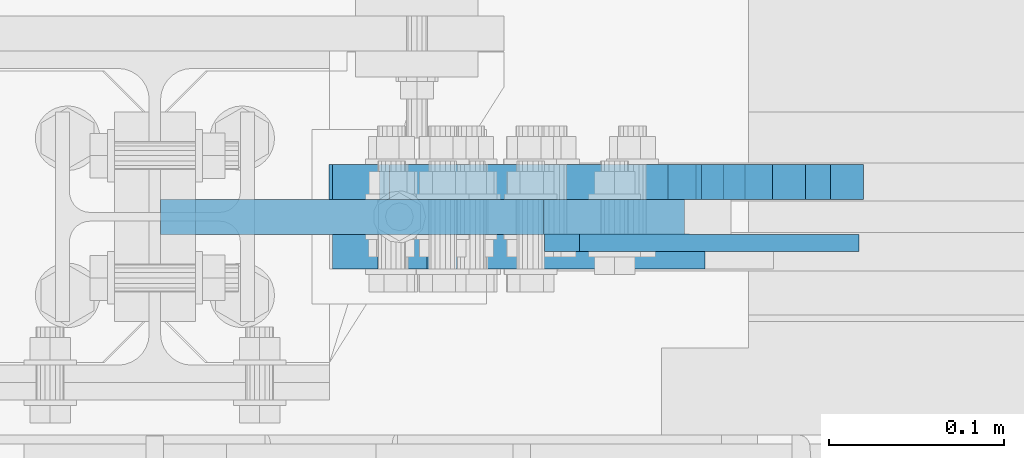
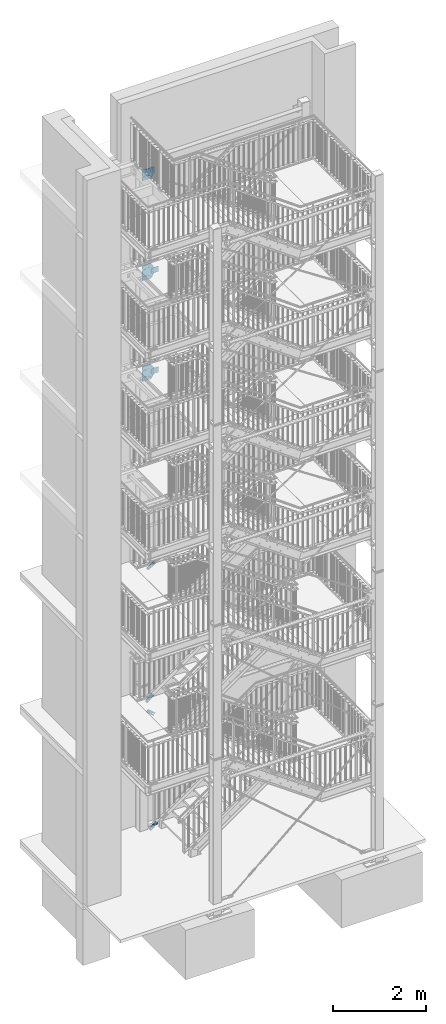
# One storey, part 182 of 825: 9 plates, 38 openings.
"""IFC2X3 building model written with IfcOpenShell, lengths in millimetres."""

from ifc_helpers import new_model, entity, si_unit, converted_unit, point, frame, frame_2d, origin, origin_with_axes, place, context, project, spatial, polyline, circle_curve, line_curve, trimmed, segment, composite_curve, circle, outline, extrude, material, layer, layer_set, element, save


model = new_model("IFC2X3")

# Units and contexts
model_context = context("Model", 3, precision=1e-09, world=origin_with_axes())
ifc_project = project(units=[si_unit("LENGTHUNIT", "METRE", prefix="MILLI"), si_unit("AREAUNIT", "SQUARE_METRE"), si_unit("VOLUMEUNIT", "CUBIC_METRE"), converted_unit("PLANEANGLEUNIT", "DEGREE", entity("IfcPlaneAngleMeasure", 0.01745329), si_unit("PLANEANGLEUNIT", "RADIAN"), dimensions=[0, 0, 0, 0, 0, 0, 0])], contexts=[model_context])

# Site, building, storey
site_placement = place(None, origin_with_axes())
site = spatial("IfcSite", under=ifc_project, at=site_placement, Name="Cnopf'sche Kinderklinik", CompositionType="ELEMENT")
building_placement = place(site_placement, origin_with_axes())
building = spatial("IfcBuilding", under=site, at=building_placement, Name="Struktur 1", CompositionType="ELEMENT")
storey_placement = place(building_placement, origin_with_axes())
storey = spatial("IfcBuildingStorey", under=building, at=storey_placement, Name="Default Storey", CompositionType="ELEMENT", Elevation=0.0)

# Plate, openings
ifc_material = material(Name="S235JR")
ifc_layer_1 = layer(ifc_material, 20.0)
ifc_layer_set_1 = layer_set([ifc_layer_1], Name="S235JR")
plate_1_placement = place(None, frame((4859.963402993, 7526.736971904, 12437.428402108), z_axis=(0.0, -1.0, 0.0), x_axis=(0.0, 0.0, -1.0)))
plate_1 = element("IfcPlate", 1, at=plate_1_placement, inside=storey, material=ifc_layer_set_1, Name="-", ObjectType="-", context=model_context, shape_type="SweptSolid", body=[
    extrude(outline(polyline([(0.0, 0.0), (386.856811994, 0.0), (386.856811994, 219.202103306), (263.428405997, 300.0), (123.428405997, 300.0), (0.0, 219.202103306), (0.0, 0.0)])), origin_with_axes(), (0.0, 0.0, 1.0), 20.0),
])
opening_1_placement = place(plate_1_placement, frame((0.0, 0.0, 20.1), z_axis=(0.0, 0.0, -1.0), x_axis=(0.0, -1.0, 0.0)))
element("IfcOpeningElement", 2, at=opening_1_placement, cuts=plate_1, ObjectType="Opening", context=model_context, shape_type="SweptSolid", body=[
    extrude(outline(composite_curve([segment(trimmed(line_curve((20.001, -257.427402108), (-1.0, 0.0), 20.001414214), [point((20.001, -257.427402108))], [point((-0.000414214, -257.427402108))], True, "CARTESIAN"), True, "CONTINUOUS"), segment(trimmed(line_curve((-0.000414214, -257.427402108), (-0.707106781, -0.707106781), 28.284271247), [point((-0.000414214, -257.427402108))], [point((-20.000414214, -277.427402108))], True, "CARTESIAN"), True, "CONTINUOUS"), segment(trimmed(line_curve((-20.000414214, -277.427402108), (-1.0, 0.0), 77.749584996), [point((-20.000414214, -277.427402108))], [point((-97.749999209, -277.427402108))], True, "CARTESIAN"), True, "CONTINUOUS"), segment(trimmed(circle_curve(frame_2d((-97.75, -283.428402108), x_axis=(1.0, 0.0)), 6.001), [point((-97.749999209, -277.427402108))], [point((-97.75, -289.429402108))], True, "CARTESIAN"), True, "CONTINUOUS"), segment(trimmed(line_curve((-97.75, -289.429402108), (1.0, 0.0), 77.749585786), [point((-97.75, -289.429402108))], [point((-20.000414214, -289.429402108))], True, "CARTESIAN"), True, "CONTINUOUS"), segment(trimmed(line_curve((-20.000414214, -289.429402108), (0.707106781, -0.707106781), 28.284271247), [point((-20.000414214, -289.429402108))], [point((-0.000414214, -309.429402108))], True, "CARTESIAN"), True, "CONTINUOUS"), segment(trimmed(line_curve((-0.000414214, -309.429402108), (1.0, 0.0), 20.001414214), [point((-0.000414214, -309.429402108))], [point((20.001, -309.429402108))], True, "CARTESIAN"), True, "CONTINUOUS"), segment(trimmed(line_curve((20.001, -309.429402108), (0.0, 1.0), 52.002), [point((20.001, -309.429402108))], [point((20.001, -257.427402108))], True, "CARTESIAN"), True, "CONTINUOUS")], self_intersect=False)), origin(), (0.0, 0.0, 1.0), 20.2),
])
opening_2_placement = place(plate_1_placement, frame((0.0, 0.0, 20.1), z_axis=(0.0, 0.0, -1.0), x_axis=(0.0, -1.0, 0.0)))
element("IfcOpeningElement", 3, at=opening_2_placement, cuts=plate_1, ObjectType="Opening", context=model_context, shape_type="SweptSolid", body=[
    extrude(outline(composite_curve([segment(trimmed(line_curve((20.001, -77.427402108), (-1.0, 0.0), 20.001414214), [point((20.001, -77.427402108))], [point((-0.000414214, -77.427402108))], True, "CARTESIAN"), True, "CONTINUOUS"), segment(trimmed(line_curve((-0.000414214, -77.427402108), (-0.707106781, -0.707106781), 28.284271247), [point((-0.000414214, -77.427402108))], [point((-20.000414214, -97.427402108))], True, "CARTESIAN"), True, "CONTINUOUS"), segment(trimmed(line_curve((-20.000414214, -97.427402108), (-1.0, 0.0), 77.749585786), [point((-20.000414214, -97.427402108))], [point((-97.75, -97.427402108))], True, "CARTESIAN"), True, "CONTINUOUS"), segment(trimmed(circle_curve(frame_2d((-97.75, -103.428402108), x_axis=(1.0, 0.0)), 6.001), [point((-97.75, -97.427402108))], [point((-97.75, -109.429402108))], True, "CARTESIAN"), True, "CONTINUOUS"), segment(trimmed(line_curve((-97.75, -109.429402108), (1.0, 0.0), 77.749585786), [point((-97.75, -109.429402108))], [point((-20.000414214, -109.429402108))], True, "CARTESIAN"), True, "CONTINUOUS"), segment(trimmed(line_curve((-20.000414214, -109.429402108), (0.707106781, -0.707106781), 28.284271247), [point((-20.000414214, -109.429402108))], [point((-0.000414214, -129.429402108))], True, "CARTESIAN"), True, "CONTINUOUS"), segment(trimmed(line_curve((-0.000414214, -129.429402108), (1.0, 0.0), 20.001414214), [point((-0.000414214, -129.429402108))], [point((20.001, -129.429402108))], True, "CARTESIAN"), True, "CONTINUOUS"), segment(trimmed(line_curve((20.001, -129.429402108), (0.0, 1.0), 52.002), [point((20.001, -129.429402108))], [point((20.001, -77.427402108))], True, "CARTESIAN"), True, "CONTINUOUS")], self_intersect=False)), origin(), (0.0, 0.0, 1.0), 20.2),
])
opening_3_placement = place(plate_1_placement, frame((163.428405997, 269.000998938, -0.5), z_axis=(0.0, 0.0, -1.0), x_axis=(-1.0, 0.0, 0.0)))
element("IfcOpeningElement", 4, at=opening_3_placement, cuts=plate_1, ObjectType="Opening", context=model_context, shape_type="SweptSolid", body=[
    extrude(circle(Radius=9.001, at=frame_2d((0.0, -9.001), x_axis=(1.0, 0.0))), origin(), (0.0, 0.0, -1.0), 21.0),
])
opening_4_placement = place(plate_1_placement, frame((223.428405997, 269.000998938, -0.5), z_axis=(0.0, 0.0, -1.0), x_axis=(-1.0, 0.0, 0.0)))
element("IfcOpeningElement", 5, at=opening_4_placement, cuts=plate_1, ObjectType="Opening", context=model_context, shape_type="SweptSolid", body=[
    extrude(circle(Radius=9.001, at=frame_2d((0.0, -9.001), x_axis=(1.0, 0.0))), origin(), (0.0, 0.0, -1.0), 21.0),
])
opening_5_placement = place(plate_1_placement, frame((329.350426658, 204.228988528, -0.5), z_axis=(0.0, 0.0, -1.0), x_axis=(-1.0, 0.0, 0.0)))
element("IfcOpeningElement", 6, at=opening_5_placement, cuts=plate_1, ObjectType="Opening", context=model_context, shape_type="SweptSolid", body=[
    extrude(circle(Radius=9.001, at=frame_2d((-4.932467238, 7.529194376), x_axis=(1.0, 0.0))), origin(), (0.0, 0.0, -1.0), 21.0),
])
opening_6_placement = place(plate_1_placement, frame((296.470965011, 154.039935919, -0.5), z_axis=(0.0, 0.0, -1.0), x_axis=(-1.0, 0.0, 0.0)))
element("IfcOpeningElement", 7, at=opening_6_placement, cuts=plate_1, ObjectType="Opening", context=model_context, shape_type="SweptSolid", body=[
    extrude(circle(Radius=9.001, at=frame_2d((-4.932467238, 7.529194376), x_axis=(1.0, 0.0))), origin(), (0.0, 0.0, -1.0), 21.0),
])
opening_7_placement = place(plate_1_placement, frame((68.83434187, 186.359941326, -0.5), z_axis=(0.0, 0.0, 1.0), x_axis=(-0.549157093, 0.835719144, 0.0)))
element("IfcOpeningElement", 8, at=opening_7_placement, cuts=plate_1, ObjectType="Opening", context=model_context, shape_type="SweptSolid", body=[
    extrude(circle(Radius=9.001, at=frame_2d((30.0, 0.0), x_axis=(1.0, 0.0))), origin(), (0.0, 0.0, 1.0), 21.0),
])
opening_8_placement = place(plate_1_placement, frame((68.83434187, 186.359941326, -0.5), z_axis=(0.0, 0.0, 1.0), x_axis=(-0.549157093, 0.835719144, 0.0)))
element("IfcOpeningElement", 9, at=opening_8_placement, cuts=plate_1, ObjectType="Opening", context=model_context, shape_type="SweptSolid", body=[
    extrude(circle(Radius=9.001, at=frame_2d((-30.0, 0.0), x_axis=(1.0, 0.0))), origin(), (0.0, 0.0, 1.0), 21.0),
])

plate_2_placement = place(None, frame((4859.963402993, 7526.736971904, 15072.428402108), z_axis=(0.0, -1.0, 0.0), x_axis=(0.0, 0.0, -1.0)))
plate_2 = element("IfcPlate", 10, at=plate_2_placement, inside=storey, material=ifc_layer_set_1, Name="-", ObjectType="-", context=model_context, shape_type="SweptSolid", body=[
    extrude(outline(polyline([(0.0, 0.0), (386.856811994, 0.0), (386.856811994, 219.202103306), (263.428405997, 300.0), (123.428405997, 300.0), (0.0, 219.202103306), (0.0, 0.0)])), origin_with_axes(), (0.0, 0.0, 1.0), 20.0),
])
opening_9_placement = place(plate_2_placement, frame((0.0, 0.0, 20.1), z_axis=(0.0, 0.0, -1.0), x_axis=(0.0, -1.0, 0.0)))
element("IfcOpeningElement", 11, at=opening_9_placement, cuts=plate_2, ObjectType="Opening", context=model_context, shape_type="SweptSolid", body=[
    extrude(outline(composite_curve([segment(trimmed(line_curve((20.001, -257.427402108), (-1.0, 0.0), 20.001414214), [point((20.001, -257.427402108))], [point((-0.000414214, -257.427402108))], True, "CARTESIAN"), True, "CONTINUOUS"), segment(trimmed(line_curve((-0.000414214, -257.427402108), (-0.707106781, -0.707106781), 28.284271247), [point((-0.000414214, -257.427402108))], [point((-20.000414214, -277.427402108))], True, "CARTESIAN"), True, "CONTINUOUS"), segment(trimmed(line_curve((-20.000414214, -277.427402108), (-1.0, 0.0), 77.749584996), [point((-20.000414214, -277.427402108))], [point((-97.749999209, -277.427402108))], True, "CARTESIAN"), True, "CONTINUOUS"), segment(trimmed(circle_curve(frame_2d((-97.75, -283.428402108), x_axis=(1.0, 0.0)), 6.001), [point((-97.749999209, -277.427402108))], [point((-97.75, -289.429402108))], True, "CARTESIAN"), True, "CONTINUOUS"), segment(trimmed(line_curve((-97.75, -289.429402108), (1.0, 0.0), 77.749585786), [point((-97.75, -289.429402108))], [point((-20.000414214, -289.429402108))], True, "CARTESIAN"), True, "CONTINUOUS"), segment(trimmed(line_curve((-20.000414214, -289.429402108), (0.707106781, -0.707106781), 28.284271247), [point((-20.000414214, -289.429402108))], [point((-0.000414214, -309.429402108))], True, "CARTESIAN"), True, "CONTINUOUS"), segment(trimmed(line_curve((-0.000414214, -309.429402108), (1.0, 0.0), 20.001414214), [point((-0.000414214, -309.429402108))], [point((20.001, -309.429402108))], True, "CARTESIAN"), True, "CONTINUOUS"), segment(trimmed(line_curve((20.001, -309.429402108), (0.0, 1.0), 52.002), [point((20.001, -309.429402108))], [point((20.001, -257.427402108))], True, "CARTESIAN"), True, "CONTINUOUS")], self_intersect=False)), origin(), (0.0, 0.0, 1.0), 20.2),
])
opening_10_placement = place(plate_2_placement, frame((0.0, 0.0, 20.1), z_axis=(0.0, 0.0, -1.0), x_axis=(0.0, -1.0, 0.0)))
element("IfcOpeningElement", 12, at=opening_10_placement, cuts=plate_2, ObjectType="Opening", context=model_context, shape_type="SweptSolid", body=[
    extrude(outline(composite_curve([segment(trimmed(line_curve((20.001, -77.427402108), (-1.0, 0.0), 20.001414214), [point((20.001, -77.427402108))], [point((-0.000414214, -77.427402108))], True, "CARTESIAN"), True, "CONTINUOUS"), segment(trimmed(line_curve((-0.000414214, -77.427402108), (-0.707106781, -0.707106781), 28.284271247), [point((-0.000414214, -77.427402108))], [point((-20.000414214, -97.427402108))], True, "CARTESIAN"), True, "CONTINUOUS"), segment(trimmed(line_curve((-20.000414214, -97.427402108), (-1.0, 0.0), 77.749585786), [point((-20.000414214, -97.427402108))], [point((-97.75, -97.427402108))], True, "CARTESIAN"), True, "CONTINUOUS"), segment(trimmed(circle_curve(frame_2d((-97.75, -103.428402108), x_axis=(1.0, 0.0)), 6.001), [point((-97.75, -97.427402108))], [point((-97.75, -109.429402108))], True, "CARTESIAN"), True, "CONTINUOUS"), segment(trimmed(line_curve((-97.75, -109.429402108), (1.0, 0.0), 77.749585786), [point((-97.75, -109.429402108))], [point((-20.000414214, -109.429402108))], True, "CARTESIAN"), True, "CONTINUOUS"), segment(trimmed(line_curve((-20.000414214, -109.429402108), (0.707106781, -0.707106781), 28.284271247), [point((-20.000414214, -109.429402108))], [point((-0.000414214, -129.429402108))], True, "CARTESIAN"), True, "CONTINUOUS"), segment(trimmed(line_curve((-0.000414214, -129.429402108), (1.0, 0.0), 20.001414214), [point((-0.000414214, -129.429402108))], [point((20.001, -129.429402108))], True, "CARTESIAN"), True, "CONTINUOUS"), segment(trimmed(line_curve((20.001, -129.429402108), (0.0, 1.0), 52.002), [point((20.001, -129.429402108))], [point((20.001, -77.427402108))], True, "CARTESIAN"), True, "CONTINUOUS")], self_intersect=False)), origin(), (0.0, 0.0, 1.0), 20.2),
])
opening_11_placement = place(plate_2_placement, frame((163.428405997, 269.000998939, -0.5), z_axis=(0.0, 0.0, -1.0), x_axis=(-1.0, 0.0, 0.0)))
element("IfcOpeningElement", 13, at=opening_11_placement, cuts=plate_2, ObjectType="Opening", context=model_context, shape_type="SweptSolid", body=[
    extrude(circle(Radius=9.001, at=frame_2d((0.0, -9.001), x_axis=(1.0, 0.0))), origin(), (0.0, 0.0, -1.0), 21.0),
])
opening_12_placement = place(plate_2_placement, frame((223.428405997, 269.000998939, -0.5), z_axis=(0.0, 0.0, -1.0), x_axis=(-1.0, 0.0, 0.0)))
element("IfcOpeningElement", 14, at=opening_12_placement, cuts=plate_2, ObjectType="Opening", context=model_context, shape_type="SweptSolid", body=[
    extrude(circle(Radius=9.001, at=frame_2d((0.0, -9.001), x_axis=(1.0, 0.0))), origin(), (0.0, 0.0, -1.0), 21.0),
])
opening_13_placement = place(plate_2_placement, frame((69.331094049, 186.685198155, -0.5), z_axis=(0.0, 0.0, 1.0), x_axis=(-0.546968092, 0.837153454, 0.0)))
element("IfcOpeningElement", 15, at=opening_13_placement, cuts=plate_2, ObjectType="Opening", context=model_context, shape_type="SweptSolid", body=[
    extrude(circle(Radius=9.001, at=frame_2d((30.0, 0.0), x_axis=(1.0, 0.0))), origin(), (0.0, 0.0, 1.0), 21.0),
])
opening_14_placement = place(plate_2_placement, frame((69.331094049, 186.685198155, -0.5), z_axis=(0.0, 0.0, 1.0), x_axis=(-0.546968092, 0.837153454, 0.0)))
element("IfcOpeningElement", 16, at=opening_14_placement, cuts=plate_2, ObjectType="Opening", context=model_context, shape_type="SweptSolid", body=[
    extrude(circle(Radius=9.001, at=frame_2d((-30.0, 0.0), x_axis=(1.0, 0.0))), origin(), (0.0, 0.0, 1.0), 21.0),
])
opening_15_placement = place(plate_2_placement, frame((329.640029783, 204.039795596, -0.5), z_axis=(0.0, 0.0, -1.0), x_axis=(-1.0, 0.0, 0.0)))
element("IfcOpeningElement", 17, at=opening_15_placement, cuts=plate_2, ObjectType="Opening", context=model_context, shape_type="SweptSolid", body=[
    extrude(circle(Radius=9.001, at=frame_2d((-4.942962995, 7.522308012), x_axis=(1.0, 0.0))), origin(), (0.0, 0.0, -1.0), 21.0),
])
opening_16_placement = place(plate_2_placement, frame((296.690604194, 153.896646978, -0.5), z_axis=(0.0, 0.0, -1.0), x_axis=(-1.0, 0.0, 0.0)))
element("IfcOpeningElement", 18, at=opening_16_placement, cuts=plate_2, ObjectType="Opening", context=model_context, shape_type="SweptSolid", body=[
    extrude(circle(Radius=9.001, at=frame_2d((-4.942962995, 7.522308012), x_axis=(1.0, 0.0))), origin(), (0.0, 0.0, -1.0), 21.0),
])

plate_3_placement = place(None, frame((5159.963402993, 7526.736971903, 17582.999996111), z_axis=(0.0, -1.0, 0.0), x_axis=(-1.0, 0.0, 0.0)))
plate_3 = element("IfcPlate", 19, at=plate_3_placement, inside=storey, material=ifc_layer_set_1, Name="-", ObjectType="-", context=model_context, shape_type="SweptSolid", body=[
    extrude(outline(polyline([(0.0, -110.0), (300.0, -110.0), (300.0, 277.428405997), (80.797896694, 277.428405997), (0.0, 154.0), (0.0, -110.0)])), origin_with_axes(), (0.0, 0.0, 1.0), 20.0),
])
opening_17_placement = place(plate_3_placement, frame((0.0, 0.0, 20.1), z_axis=(0.0, 0.0, -1.0), x_axis=(1.0, 0.0, 0.0)))
element("IfcOpeningElement", 20, at=opening_17_placement, cuts=plate_3, ObjectType="Opening", context=model_context, shape_type="SweptSolid", body=[
    extrude(outline(composite_curve([segment(trimmed(line_curve((320.001, -147.998996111), (-1.0, 0.0), 20.001414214), [point((320.001, -147.998996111))], [point((299.999585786, -147.998996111))], True, "CARTESIAN"), True, "CONTINUOUS"), segment(trimmed(line_curve((299.999585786, -147.998996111), (-0.707106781, -0.707106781), 28.284271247), [point((299.999585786, -147.998996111))], [point((279.999585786, -167.998996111))], True, "CARTESIAN"), True, "CONTINUOUS"), segment(trimmed(line_curve((279.999585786, -167.998996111), (-1.0, 0.0), 77.749585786), [point((279.999585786, -167.998996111))], [point((202.25, -167.998996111))], True, "CARTESIAN"), True, "CONTINUOUS"), segment(trimmed(circle_curve(frame_2d((202.25, -173.999996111), x_axis=(1.0, 0.0)), 6.001), [point((202.25, -167.998996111))], [point((202.250004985, -180.000996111))], True, "CARTESIAN"), True, "CONTINUOUS"), segment(trimmed(line_curve((202.250004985, -180.000996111), (1.0, 0.0), 77.749580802), [point((202.250004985, -180.000996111))], [point((279.999585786, -180.000996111))], True, "CARTESIAN"), True, "CONTINUOUS"), segment(trimmed(line_curve((279.999585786, -180.000996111), (0.707106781, -0.707106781), 28.284271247), [point((279.999585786, -180.000996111))], [point((299.999585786, -200.000996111))], True, "CARTESIAN"), True, "CONTINUOUS"), segment(trimmed(line_curve((299.999585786, -200.000996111), (1.0, 0.0), 20.001414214), [point((299.999585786, -200.000996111))], [point((320.001, -200.000996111))], True, "CARTESIAN"), True, "CONTINUOUS"), segment(trimmed(line_curve((320.001, -200.000996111), (0.0, 1.0), 52.002), [point((320.001, -200.000996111))], [point((320.001, -147.998996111))], True, "CARTESIAN"), True, "CONTINUOUS")], self_intersect=False)), origin(), (0.0, 0.0, 1.0), 20.2),
])
opening_18_placement = place(plate_3_placement, frame((0.0, 0.0, -0.1), z_axis=(0.0, 0.0, 1.0), x_axis=(-1.0, 0.0, 0.0)))
element("IfcOpeningElement", 21, at=opening_18_placement, cuts=plate_3, ObjectType="Opening", context=model_context, shape_type="SweptSolid", body=[
    extrude(outline(polyline([(123.401028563, 206.927402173), (-355.357954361, 206.927402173), (-355.357954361, -85.360632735), (-279.997757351, -10.001996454), (153.908737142, -10.001996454), (123.401028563, 206.927402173)])), origin(), (0.0, 0.0, 1.0), 20.2),
])
opening_19_placement = place(plate_3_placement, frame((30.999001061, 54.0, -0.5), z_axis=(0.0, 0.0, -1.0), x_axis=(-1.0, 0.0, 0.0)))
element("IfcOpeningElement", 22, at=opening_19_placement, cuts=plate_3, ObjectType="Opening", context=model_context, shape_type="SweptSolid", body=[
    extrude(circle(Radius=9.001, at=frame_2d((-9.001, 0.0), x_axis=(1.0, 0.0))), origin(), (0.0, 0.0, -1.0), 21.0),
])
opening_20_placement = place(plate_3_placement, frame((30.999001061, 114.0, -0.5), z_axis=(0.0, 0.0, -1.0), x_axis=(-1.0, 0.0, 0.0)))
element("IfcOpeningElement", 23, at=opening_20_placement, cuts=plate_3, ObjectType="Opening", context=model_context, shape_type="SweptSolid", body=[
    extrude(circle(Radius=9.001, at=frame_2d((-9.001, 0.0), x_axis=(1.0, 0.0))), origin(), (0.0, 0.0, -1.0), 21.0),
])
opening_21_placement = place(plate_3_placement, frame((95.605125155, 219.668222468, -0.5), z_axis=(0.0, 0.0, -1.0), x_axis=(-1.0, 0.0, 0.0)))
element("IfcOpeningElement", 24, at=opening_21_placement, cuts=plate_3, ObjectType="Opening", context=model_context, shape_type="SweptSolid", body=[
    extrude(circle(Radius=9.001, at=frame_2d((7.535218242, 4.923259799), x_axis=(1.0, 0.0))), origin(), (0.0, 0.0, -1.0), 21.0),
])
opening_22_placement = place(plate_3_placement, frame((145.834332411, 186.850136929, -0.5), z_axis=(0.0, 0.0, -1.0), x_axis=(-1.0, 0.0, 0.0)))
element("IfcOpeningElement", 25, at=opening_22_placement, cuts=plate_3, ObjectType="Opening", context=model_context, shape_type="SweptSolid", body=[
    extrude(circle(Radius=9.001, at=frame_2d((7.535218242, 4.923259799), x_axis=(1.0, 0.0))), origin(), (0.0, 0.0, -1.0), 21.0),
])

ifc_layer_2 = layer(ifc_material, 10.0)
ifc_layer_set_2 = layer_set([ifc_layer_2], Name="S235JR")
plate_4_placement = place(None, frame((5169.963401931, 7506.736971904, 12243.999996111), z_axis=(0.0, 1.0, 0.0), x_axis=(-1.0, 0.0, 0.0)))
plate_4 = element("IfcPlate", 26, at=plate_4_placement, inside=storey, material=ifc_layer_set_2, Name="-", ObjectType="-", context=model_context, shape_type="SweptSolid", body=[
    extrude(outline(polyline([(-90.0, -70.0), (90.0, -70.0), (90.0, 70.0), (-90.0, 70.0), (-90.0, -70.0)])), origin_with_axes(), (0.0, 0.0, -1.0), 10.0),
])
opening_23_placement = place(plate_4_placement, frame((90.0, -70.0, 0.01), z_axis=(0.0, 0.0, 1.0), x_axis=(0.0, 1.0, 0.0)))
element("IfcOpeningElement", 27, at=opening_23_placement, cuts=plate_4, ObjectType="Opening", context=model_context, shape_type="SweptSolid", body=[
    extrude(outline(polyline([(0.0, 0.0), (20.0, 0.0), (0.0, 20.0), (0.0, 0.0)])), origin(), (0.0, 0.0, -1.0), 10.02),
])
opening_24_placement = place(plate_4_placement, frame((90.0, 70.0, 0.01), z_axis=(0.0, 0.0, 1.0), x_axis=(-1.0, 0.0, 0.0)))
element("IfcOpeningElement", 28, at=opening_24_placement, cuts=plate_4, ObjectType="Opening", context=model_context, shape_type="SweptSolid", body=[
    extrude(outline(polyline([(0.0, 0.0), (20.0, 0.0), (0.0, 20.0), (0.0, 0.0)])), origin(), (0.0, 0.0, -1.0), 10.02),
])
opening_25_placement = place(plate_4_placement, frame((40.999, 30.0, 0.5), z_axis=(0.0, 0.0, 1.0), x_axis=(1.0, 0.0, 0.0)))
element("IfcOpeningElement", 29, at=opening_25_placement, cuts=plate_4, ObjectType="Opening", context=model_context, shape_type="SweptSolid", body=[
    extrude(circle(Radius=9.001, at=frame_2d((9.001, 0.0), x_axis=(1.0, 0.0))), origin(), (0.0, 0.0, -1.0), 11.0),
])
opening_26_placement = place(plate_4_placement, frame((40.999, -30.0, 0.5), z_axis=(0.0, 0.0, 1.0), x_axis=(1.0, 0.0, 0.0)))
element("IfcOpeningElement", 30, at=opening_26_placement, cuts=plate_4, ObjectType="Opening", context=model_context, shape_type="SweptSolid", body=[
    extrude(circle(Radius=9.001, at=frame_2d((9.001, 0.0), x_axis=(1.0, 0.0))), origin(), (0.0, 0.0, -1.0), 11.0),
])

plate_5_placement = place(None, frame((5169.963401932, 7506.736971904, 14878.999996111), z_axis=(0.0, 1.0, 0.0), x_axis=(-1.0, 0.0, 0.0)))
plate_5 = element("IfcPlate", 31, at=plate_5_placement, inside=storey, material=ifc_layer_set_2, Name="-", ObjectType="-", context=model_context, shape_type="SweptSolid", body=[
    extrude(outline(polyline([(-90.0, -70.0), (90.0, -70.0), (90.0, 70.0), (-90.0, 70.0), (-90.0, -70.0)])), origin_with_axes(), (0.0, 0.0, -1.0), 10.0),
])
opening_27_placement = place(plate_5_placement, frame((90.0, -70.0, 0.01), z_axis=(0.0, 0.0, 1.0), x_axis=(0.0, 1.0, 0.0)))
element("IfcOpeningElement", 32, at=opening_27_placement, cuts=plate_5, ObjectType="Opening", context=model_context, shape_type="SweptSolid", body=[
    extrude(outline(polyline([(0.0, 0.0), (20.0, 0.0), (0.0, 20.0), (0.0, 0.0)])), origin(), (0.0, 0.0, -1.0), 10.02),
])
opening_28_placement = place(plate_5_placement, frame((90.0, 70.0, 0.01), z_axis=(0.0, 0.0, 1.0), x_axis=(-1.0, 0.0, 0.0)))
element("IfcOpeningElement", 33, at=opening_28_placement, cuts=plate_5, ObjectType="Opening", context=model_context, shape_type="SweptSolid", body=[
    extrude(outline(polyline([(0.0, 0.0), (20.0, 0.0), (0.0, 20.0), (0.0, 0.0)])), origin(), (0.0, 0.0, -1.0), 10.02),
])
opening_29_placement = place(plate_5_placement, frame((40.999, 30.0, 0.5), z_axis=(0.0, 0.0, 1.0), x_axis=(1.0, 0.0, 0.0)))
element("IfcOpeningElement", 34, at=opening_29_placement, cuts=plate_5, ObjectType="Opening", context=model_context, shape_type="SweptSolid", body=[
    extrude(circle(Radius=9.001, at=frame_2d((9.001, 0.0), x_axis=(1.0, 0.0))), origin(), (0.0, 0.0, -1.0), 11.0),
])
opening_30_placement = place(plate_5_placement, frame((40.999, -30.0, 0.5), z_axis=(0.0, 0.0, 1.0), x_axis=(1.0, 0.0, 0.0)))
element("IfcOpeningElement", 35, at=opening_30_placement, cuts=plate_5, ObjectType="Opening", context=model_context, shape_type="SweptSolid", body=[
    extrude(circle(Radius=9.001, at=frame_2d((9.001, 0.0), x_axis=(1.0, 0.0))), origin(), (0.0, 0.0, -1.0), 11.0),
])

plate_6_placement = place(None, frame((5138.483538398, 7506.736971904, 3254.92436087), z_axis=(0.0, 1.0, 0.0), x_axis=(-0.652408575, 0.0, -0.757867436)))
plate_6 = element("IfcPlate", 36, at=plate_6_placement, inside=storey, material=ifc_layer_set_1, Name="-", ObjectType="-", context=model_context, shape_type="SweptSolid", body=[
    extrude(outline(polyline([(0.0, 0.0), (29.0, 0.0), (29.0, 210.0), (9.0, 230.0), (-31.0, 230.0), (-51.0, 210.0), (-51.0, 0.0), (-22.0, 0.0), (-22.0, 80.0), (0.0, 80.0), (0.0, 0.0)])), origin_with_axes(), (0.0, 0.0, -1.0), 20.0),
])
opening_31_placement = place(plate_6_placement, frame((-11.000000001, 149.001, 0.5), z_axis=(0.0, 0.0, 1.0), x_axis=(1.0, 0.0, 0.0)))
element("IfcOpeningElement", 37, at=opening_31_placement, cuts=plate_6, ObjectType="Opening", context=model_context, shape_type="SweptSolid", body=[
    extrude(circle(Radius=9.001, at=frame_2d((0.0, -9.001), x_axis=(1.0, 0.0))), origin(), (0.0, 0.0, -1.0), 21.0),
])
opening_32_placement = place(plate_6_placement, frame((-11.000000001, 209.001, 0.5), z_axis=(0.0, 0.0, 1.0), x_axis=(1.0, 0.0, 0.0)))
element("IfcOpeningElement", 38, at=opening_32_placement, cuts=plate_6, ObjectType="Opening", context=model_context, shape_type="SweptSolid", body=[
    extrude(circle(Radius=9.001, at=frame_2d((0.0, -9.001), x_axis=(1.0, 0.0))), origin(), (0.0, 0.0, -1.0), 21.0),
])

plate_7_placement = place(None, frame((5229.22994435, 7546.736971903, 395.194486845), z_axis=(0.0, -1.0, 0.0), x_axis=(-0.652408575, 0.0, 0.757867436)))
plate_7 = element("IfcPlate", 39, at=plate_7_placement, inside=storey, material=ifc_layer_set_1, Name="-", ObjectType="-", context=model_context, shape_type="SweptSolid", body=[
    extrude(outline(polyline([(0.0, 0.0), (29.0, 0.0), (29.0, 210.0), (9.0, 230.0), (-31.0, 230.0), (-51.0, 210.0), (-51.0, 0.0), (-22.0, 0.0), (-22.0, 80.0), (0.0, 80.0), (0.0, 0.0)])), origin_with_axes(), (0.0, 0.0, 1.0), 20.0),
])
opening_33_placement = place(plate_7_placement, frame((-11.0, 170.0, -0.5), z_axis=(0.0, 0.0, 1.0), x_axis=(0.0, -1.0, 0.0)))
element("IfcOpeningElement", 40, at=opening_33_placement, cuts=plate_7, ObjectType="Opening", context=model_context, shape_type="SweptSolid", body=[
    extrude(circle(Radius=9.001, at=frame_2d((30.0, 0.0), x_axis=(1.0, 0.0))), origin(), (0.0, 0.0, 1.0), 21.0),
])
opening_34_placement = place(plate_7_placement, frame((-11.0, 170.0, -0.5), z_axis=(0.0, 0.0, 1.0), x_axis=(0.0, -1.0, 0.0)))
element("IfcOpeningElement", 41, at=opening_34_placement, cuts=plate_7, ObjectType="Opening", context=model_context, shape_type="SweptSolid", body=[
    extrude(circle(Radius=9.001, at=frame_2d((-30.0, 0.0), x_axis=(1.0, 0.0))), origin(), (0.0, 0.0, 1.0), 21.0),
])

plate_8_placement = place(None, frame((5182.479893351, 7546.736971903, 7211.963357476), z_axis=(0.0, -1.0, 0.0), x_axis=(-0.548722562, 0.0, 0.836004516)))
plate_8 = element("IfcPlate", 42, at=plate_8_placement, inside=storey, material=ifc_layer_set_1, Name="-", ObjectType="-", context=model_context, shape_type="SweptSolid", body=[
    extrude(outline(polyline([(0.0, 0.0), (29.0, 0.0), (29.0, 210.0), (9.0, 230.0), (-31.0, 230.0), (-51.0, 210.0), (-51.0, 0.0), (-22.0, 0.0), (-22.0, 80.0), (0.0, 80.0), (0.0, 0.0)])), origin_with_axes(), (0.0, 0.0, 1.0), 20.0),
])
opening_35_placement = place(plate_8_placement, frame((-11.0, 170.0, -0.5), z_axis=(0.0, 0.0, 1.0), x_axis=(0.0, -1.0, 0.0)))
element("IfcOpeningElement", 43, at=opening_35_placement, cuts=plate_8, ObjectType="Opening", context=model_context, shape_type="SweptSolid", body=[
    extrude(circle(Radius=9.001, at=frame_2d((30.0, 0.0), x_axis=(1.0, 0.0))), origin(), (0.0, 0.0, 1.0), 21.0),
])
opening_36_placement = place(plate_8_placement, frame((-11.0, 170.0, -0.5), z_axis=(0.0, 0.0, 1.0), x_axis=(0.0, -1.0, 0.0)))
element("IfcOpeningElement", 44, at=opening_36_placement, cuts=plate_8, ObjectType="Opening", context=model_context, shape_type="SweptSolid", body=[
    extrude(circle(Radius=9.001, at=frame_2d((-30.0, 0.0), x_axis=(1.0, 0.0))), origin(), (0.0, 0.0, 1.0), 21.0),
])

plate_9_placement = place(None, frame((5136.237715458, 7546.736971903, 3768.643811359), z_axis=(0.0, -1.0, 0.0), x_axis=(-0.654679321, 0.0, 0.755906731)))
plate_9 = element("IfcPlate", 45, at=plate_9_placement, inside=storey, material=ifc_layer_set_1, Name="-", ObjectType="-", context=model_context, shape_type="SweptSolid", body=[
    extrude(outline(polyline([(0.0, 0.0), (29.0, 0.0), (29.0, 210.0), (9.0, 230.0), (-31.0, 230.0), (-51.0, 210.0), (-51.0, 0.0), (-22.0, 0.0), (-22.0, 80.0), (0.0, 80.0), (0.0, 0.0)])), origin_with_axes(), (0.0, 0.0, 1.0), 20.0),
])
opening_37_placement = place(plate_9_placement, frame((-11.0, 170.0, -0.5), z_axis=(0.0, 0.0, 1.0), x_axis=(0.0, -1.0, 0.0)))
element("IfcOpeningElement", 46, at=opening_37_placement, cuts=plate_9, ObjectType="Opening", context=model_context, shape_type="SweptSolid", body=[
    extrude(circle(Radius=9.001, at=frame_2d((30.0, 0.0), x_axis=(1.0, 0.0))), origin(), (0.0, 0.0, 1.0), 21.0),
])
opening_38_placement = place(plate_9_placement, frame((-11.0, 170.0, -0.5), z_axis=(0.0, 0.0, 1.0), x_axis=(0.0, -1.0, 0.0)))
element("IfcOpeningElement", 47, at=opening_38_placement, cuts=plate_9, ObjectType="Opening", context=model_context, shape_type="SweptSolid", body=[
    extrude(circle(Radius=9.001, at=frame_2d((-30.0, 0.0), x_axis=(1.0, 0.0))), origin(), (0.0, 0.0, 1.0), 21.0),
])

save(model, "model.ifc")
